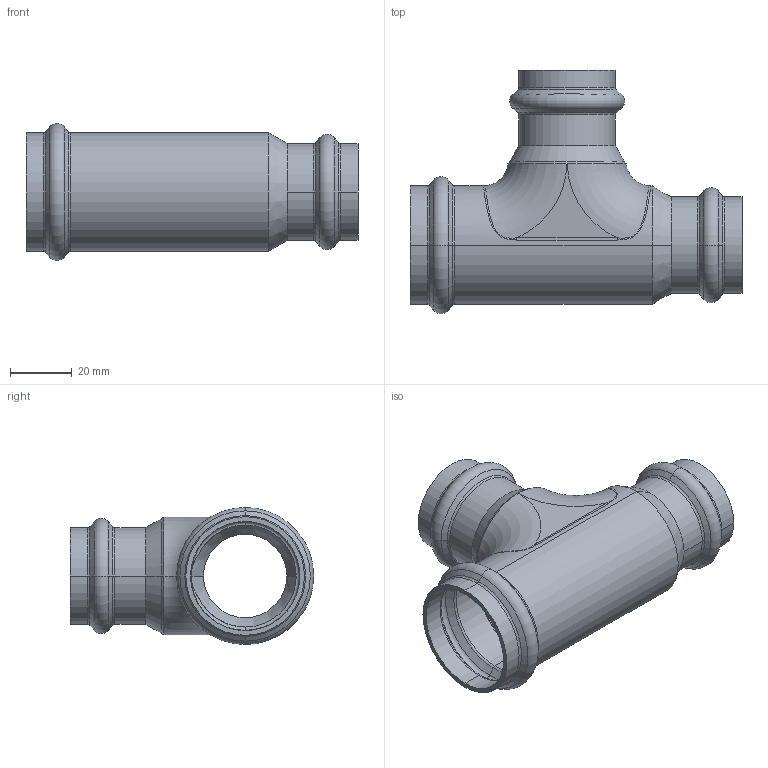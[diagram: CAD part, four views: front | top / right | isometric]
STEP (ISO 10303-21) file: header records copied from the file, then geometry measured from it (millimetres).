
FILE_DESCRIPTION (( 'STEP AP203' ), '1' );
FILE_NAME ('SP5130 Ø35-28-28.STEP', '2017-04-24T13:21:41', ( '' ), ( '' ), 'SwSTEP 2.0', 'SolidWorks 2016', '' );
FILE_SCHEMA (( 'CONFIG_CONTROL_DESIGN' ));
Length unit declared in the file: millimetre
Products named in the file (1): SP5130 Ø35-28-28
Bounding box: 107.25 x 78.65 x 44.3 mm (x, y, z)
Volume: 33134.6 mm3; surface area: 32640.9 mm2
Topology: 1 solids, 1 shells, 129 faces, 286 edges, 156 vertices
Faces by surface type: torus 46, cone 36, cylinder 35, bspline 6, plane 6
Entity records: 5416 total; most frequent: CARTESIAN_POINT 2467, DIRECTION 686, ORIENTED_EDGE 564, AXIS2_PLACEMENT_3D 308, EDGE_CURVE 282, CIRCLE 184, VERTEX_POINT 156, EDGE_LOOP 134
